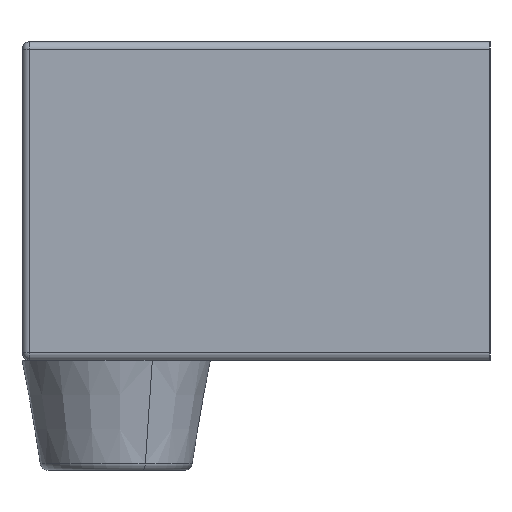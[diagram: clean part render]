
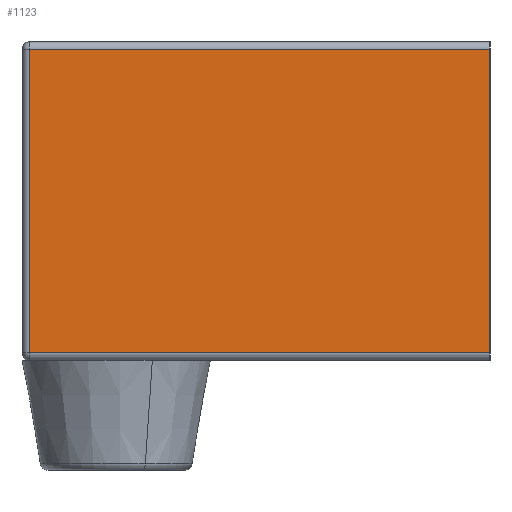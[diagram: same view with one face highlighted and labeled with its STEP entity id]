
A CAD part, left-side view. The second image highlights one B-rep face of the part: STEP entity #1123.
In plain terms, the highlighted planar face has unit normal (-1, 0, 0).
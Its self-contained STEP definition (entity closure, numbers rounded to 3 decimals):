
#39 = CARTESIAN_POINT ( 'NONE',  ( -60.292, 19.652, -465.637 ) ) ;
#453 = VECTOR ( 'NONE', #4453, 1000. ) ;
#724 = EDGE_CURVE ( 'NONE', #3619, #2178, #6397, .T. ) ;
#890 = VERTEX_POINT ( 'NONE', #8974 ) ;
#1123 = ADVANCED_FACE ( 'NONE', ( #6789 ), #2012, .F. ) ;
#1307 = DIRECTION ( 'NONE',  ( 0., 1., 0. ) ) ;
#1508 = ORIENTED_EDGE ( 'NONE', *, *, #724, .T. ) ;
#1927 = CARTESIAN_POINT ( 'NONE',  ( -60.292, 48.952, -465.137 ) ) ;
#1970 = CARTESIAN_POINT ( 'NONE',  ( -60.292, 19.652, -484.937 ) ) ;
#2012 = PLANE ( 'NONE',  #3011 ) ;
#2178 = VERTEX_POINT ( 'NONE', #1970 ) ;
#2195 = VECTOR ( 'NONE', #6010, 1000. ) ;
#2755 = LINE ( 'NONE', #4101, #6316 ) ;
#3011 = AXIS2_PLACEMENT_3D ( 'NONE', #6394, #7781, #8461 ) ;
#3013 = EDGE_CURVE ( 'NONE', #6163, #2178, #4982, .T. ) ;
#3619 = VERTEX_POINT ( 'NONE', #7179 ) ;
#3653 = CARTESIAN_POINT ( 'NONE',  ( -60.292, 19.652, -465.137 ) ) ;
#3832 = EDGE_CURVE ( 'NONE', #890, #3619, #8134, .T. ) ;
#3848 = ORIENTED_EDGE ( 'NONE', *, *, #3013, .F. ) ;
#4101 = CARTESIAN_POINT ( 'NONE',  ( -60.292, 19.652, -465.637 ) ) ;
#4315 = CARTESIAN_POINT ( 'NONE',  ( -60.292, 19.652, -484.937 ) ) ;
#4453 = DIRECTION ( 'NONE',  ( 0., 0., -1. ) ) ;
#4982 = LINE ( 'NONE', #3653, #453 ) ;
#6010 = DIRECTION ( 'NONE',  ( 0., 0., -1. ) ) ;
#6163 = VERTEX_POINT ( 'NONE', #39 ) ;
#6316 = VECTOR ( 'NONE', #1307, 1000. ) ;
#6394 = CARTESIAN_POINT ( 'NONE',  ( -60.292, 19.652, -465.137 ) ) ;
#6397 = LINE ( 'NONE', #4315, #7140 ) ;
#6564 = EDGE_LOOP ( 'NONE', ( #8793, #1508, #3848, #7376 ) ) ;
#6789 = FACE_OUTER_BOUND ( 'NONE', #6564, .T. ) ;
#7074 = DIRECTION ( 'NONE',  ( 0., -1., 0. ) ) ;
#7140 = VECTOR ( 'NONE', #7074, 1000. ) ;
#7179 = CARTESIAN_POINT ( 'NONE',  ( -60.292, 48.952, -484.937 ) ) ;
#7376 = ORIENTED_EDGE ( 'NONE', *, *, #8141, .T. ) ;
#7781 = DIRECTION ( 'NONE',  ( 1., 0., 0. ) ) ;
#8134 = LINE ( 'NONE', #1927, #2195 ) ;
#8141 = EDGE_CURVE ( 'NONE', #6163, #890, #2755, .T. ) ;
#8461 = DIRECTION ( 'NONE',  ( 0., 0., -1. ) ) ;
#8793 = ORIENTED_EDGE ( 'NONE', *, *, #3832, .T. ) ;
#8974 = CARTESIAN_POINT ( 'NONE',  ( -60.292, 48.952, -465.637 ) ) ;
